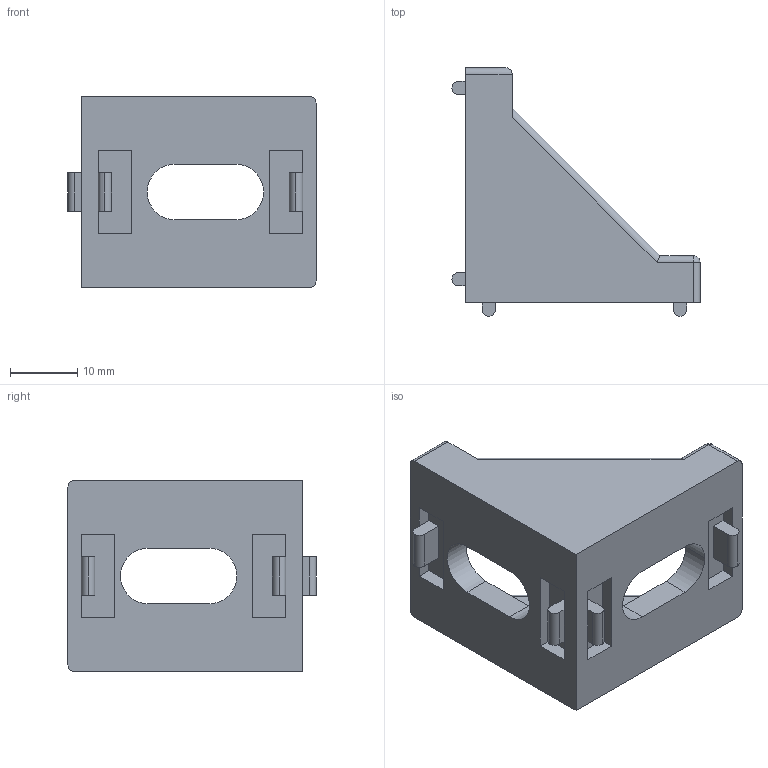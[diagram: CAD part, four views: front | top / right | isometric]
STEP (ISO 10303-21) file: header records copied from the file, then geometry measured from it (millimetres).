
FILE_DESCRIPTION (( 'STEP AP203' ), '1' );
FILE_NAME ('52－CE-RA3030G-6.STEP', '2015-07-07T06:16:38', ( '' ), ( '' ), 'SwSTEP 2.0', 'SolidWorks 2013', '' );
FILE_SCHEMA (( 'CONFIG_CONTROL_DESIGN' ));
Length unit declared in the file: millimetre
Products named in the file (1): 52－CE-RA3030G-6
Bounding box: 37 x 37 x 28.5 mm (x, y, z)
Volume: 9049.8 mm3; surface area: 6259.6 mm2
Topology: 1 solids, 1 shells, 102 faces, 260 edges, 158 vertices
Faces by surface type: plane 60, cylinder 36, sphere 6
Entity records: 3065 total; most frequent: CARTESIAN_POINT 545, ORIENTED_EDGE 508, DIRECTION 504, EDGE_CURVE 254, LINE 190, VECTOR 190, VERTEX_POINT 158, AXIS2_PLACEMENT_3D 157
